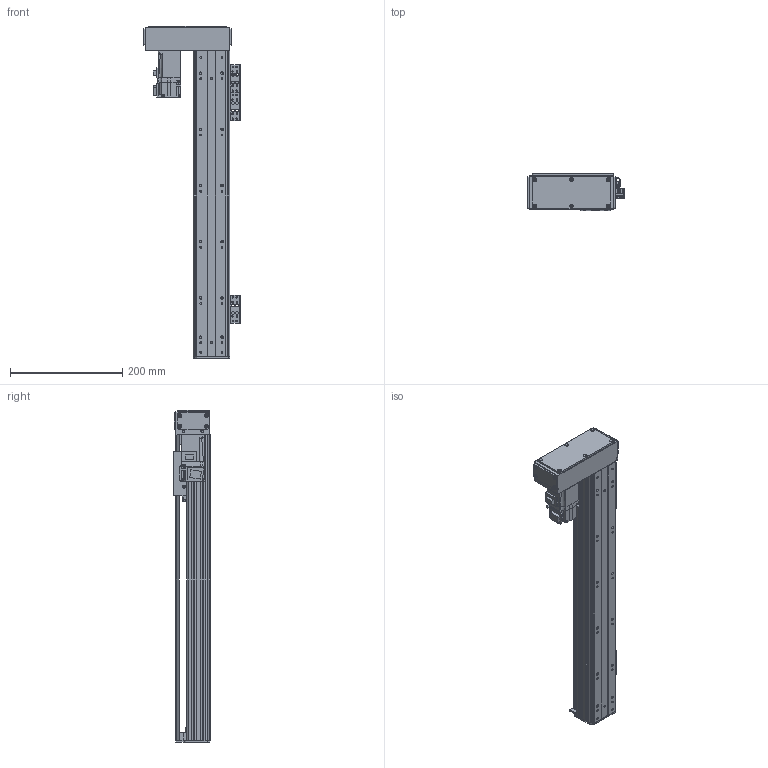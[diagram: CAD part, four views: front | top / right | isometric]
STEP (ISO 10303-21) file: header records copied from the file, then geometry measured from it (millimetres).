
FILE_DESCRIPTION(/* description */ ('MANUFACTURE'),/* implementation_level */ '2;1');
FILE_NAME(/* name */ '\\192.168.0.160\disk1\HAN SHIN Master\B-설계부문\C-표준\B-2024년\BC02-표준도면\+로봇 개선표준도면\표준 승인도 폴더 - 재작업\3D\HG65\병렬-L\HG65-L10-N-0400-R10.stp',/* time_stamp */ '2024-03-05T15:11:29+09:00',/* author */ ('User'),/* organization */ (''),/* preprocessor_version */ 'ST-DEVELOPER v18.1',/* originating_system */ 'Autodesk Inventor 2022',/* authorisation */ 'LIP');
FILE_SCHEMA (('AUTOMOTIVE_DESIGN { 1 0 10303 214 3 1 1 }'));
Products named in the file (22): HG65-L10-N-0500-R10 - 간소화; HR65 R BASE; HR65,75 SENSOR DOG; HR65 REAR COVER; HR65 FRONT BLOCK; HR65 FRONT BLOCK_1; hsr_ftht_A-M6F_grease_nipple_joint; HR65 UPCOVER (S); NIPPLE CAP(신규); HC1STOPPER; HR65 L,R MOTOR PLATE (100W)-사출; MOTOR PLATE-100W(MITSUBISHI); hg-kr13_; 화살표; HR65-LR-BELT COVER; HR65-BELT COVER-COVER; HR65-BELT COVER-COVER2; HR65-BELT COVER-COVER3; HR65 TABLE(Wide&Normal); ESF1210 NUT; SENSOR BRK(EE-SX674A); EE_SX674A
Assembly tree (34 placements, depth 2):
  HG65-L10-N-0500-R10 - 간소화
    HR65 R BASE
    HR65,75 SENSOR DOG
    SENSOR BRK(EE-SX674A)  x3
    EE_SX674A  x3
    HR65 REAR COVER
    HR65 FRONT BLOCK
    HR65 FRONT BLOCK_1
    HC1STOPPER  x4
    hsr_ftht_A-M6F_grease_nipple_joint  x3
    HR65 UPCOVER (S)
    NIPPLE CAP(신규)  x3
    HR65 L,R MOTOR PLATE (100W)-사출
    MOTOR PLATE-100W(MITSUBISHI)
    hg-kr13_
    화살표  x2
    HR65-LR-BELT COVER
    HR65-BELT COVER-COVER
    HR65-BELT COVER-COVER2
    HR65-BELT COVER-COVER3  x2
    HR65 TABLE(Wide&Normal)
    ESF1210 NUT
Bounding box: 172 x 65 x 591 mm (x, y, z)
Volume: 956937 mm3; surface area: 484130.9 mm2
Topology: 34 solids, 34 shells, 2695 faces, 7420 edges, 4884 vertices
Faces by surface type: plane 1786, cylinder 669, cone 177, sphere 24, bspline 21, torus 18
Full cylindrical faces by diameter (mm): 2.459 x74, 3 x18, 3.242 x44, 3.4 x32, 3.5 x14, 4 x14, 4.134 x1, 4.5 x43, 4.917 x5, 5 x12, 5.6 x5, 5.9 x2, 6 x15, 6.5 x10, 8 x14, 9 x4, 10 x1, 12 x1, 15 x1, 16 x1, 17 x1, 22 x2, 24 x1, 24.5 x1, 28 x2, 29.4 x1, 30 x2
Entity records: 76440 total; most frequent: CARTESIAN_POINT 14952, ORIENTED_EDGE 12608, DIRECTION 12079, EDGE_CURVE 6304, LINE 4859, VECTOR 4859, VERTEX_POINT 4183, AXIS2_PLACEMENT_3D 3610
